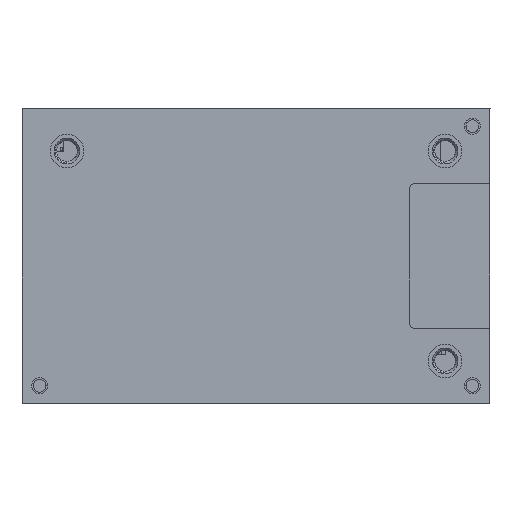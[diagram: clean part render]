
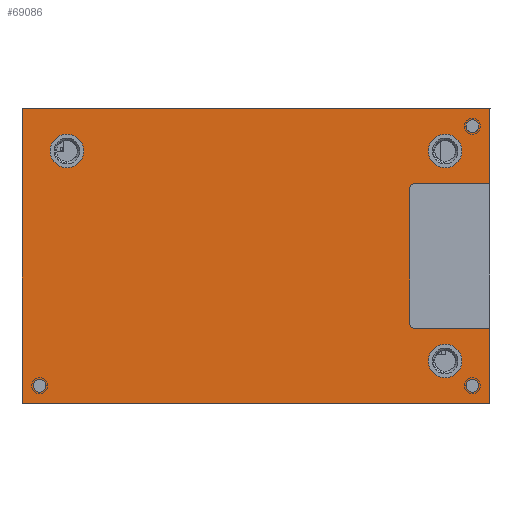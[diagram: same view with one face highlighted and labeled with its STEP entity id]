
A CAD part, top view. The second image highlights one B-rep face of the part: STEP entity #69086.
In plain terms, the highlighted planar face has unit normal (0, 0, 1).
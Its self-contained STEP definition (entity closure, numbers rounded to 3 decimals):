
#67449=CARTESIAN_POINT('',(27.,16.2,1.45));
#67450=DIRECTION('',(0.,0.,-1.));
#67451=DIRECTION('',(1.,0.,0.));
#67452=AXIS2_PLACEMENT_3D('',#67449,#67450,#67451);
#67457=CARTESIAN_POINT('',(27.,16.2,1.45));
#67458=DIRECTION('',(0.,0.,-1.));
#67459=DIRECTION('',(-1.,0.,0.));
#67460=AXIS2_PLACEMENT_3D('',#67457,#67458,#67459);
#67465=CARTESIAN_POINT('',(27.,-16.2,1.45));
#67466=DIRECTION('',(0.,0.,1.));
#67467=DIRECTION('',(1.,0.,0.));
#67468=AXIS2_PLACEMENT_3D('',#67465,#67466,#67467);
#67473=CARTESIAN_POINT('',(27.,-16.2,1.45));
#67474=DIRECTION('',(0.,0.,1.));
#67475=DIRECTION('',(-1.,0.,0.));
#67476=AXIS2_PLACEMENT_3D('',#67473,#67474,#67475);
#67481=CARTESIAN_POINT('',(-27.,-16.2,1.45));
#67482=DIRECTION('',(0.,0.,-1.));
#67483=DIRECTION('',(-1.,0.,0.));
#67484=AXIS2_PLACEMENT_3D('',#67481,#67482,#67483);
#67489=CARTESIAN_POINT('',(-27.,-16.2,1.45));
#67490=DIRECTION('',(0.,0.,-1.));
#67491=DIRECTION('',(1.,0.,0.));
#67492=AXIS2_PLACEMENT_3D('',#67489,#67490,#67491);
#67497=DIRECTION('',(-1.,0.,0.));
#67498=VECTOR('',#67497,9.5);
#67499=CARTESIAN_POINT('',(29.2,9.,1.45));
#67500=LINE('',#67499,#67498);
#67504=CARTESIAN_POINT('',(19.7,8.5,1.45));
#67505=DIRECTION('',(0.,0.,1.));
#67506=DIRECTION('',(0.,1.,0.));
#67507=AXIS2_PLACEMENT_3D('',#67504,#67505,#67506);
#67512=DIRECTION('',(0.,-1.,0.));
#67513=VECTOR('',#67512,17.);
#67514=CARTESIAN_POINT('',(19.2,8.5,1.45));
#67515=LINE('',#67514,#67513);
#67519=CARTESIAN_POINT('',(19.7,-8.5,1.45));
#67520=DIRECTION('',(0.,0.,1.));
#67521=DIRECTION('',(-1.,0.,0.));
#67522=AXIS2_PLACEMENT_3D('',#67519,#67520,#67521);
#67527=DIRECTION('',(-1.,0.,0.));
#67528=VECTOR('',#67527,9.5);
#67529=CARTESIAN_POINT('',(29.2,-9.,1.45));
#67530=LINE('',#67529,#67528);
#67534=DIRECTION('',(0.,1.,0.));
#67535=VECTOR('',#67534,9.4);
#67536=CARTESIAN_POINT('',(29.2,-18.4,1.45));
#67537=LINE('',#67536,#67535);
#67541=DIRECTION('',(1.,0.,0.));
#67542=VECTOR('',#67541,58.4);
#67543=CARTESIAN_POINT('',(-29.2,-18.4,1.45));
#67544=LINE('',#67543,#67542);
#67548=DIRECTION('',(0.,-1.,0.));
#67549=VECTOR('',#67548,36.8);
#67550=CARTESIAN_POINT('',(-29.2,18.4,1.45));
#67551=LINE('',#67550,#67549);
#67555=DIRECTION('',(-1.,0.,0.));
#67556=VECTOR('',#67555,58.4);
#67557=CARTESIAN_POINT('',(29.2,18.4,1.45));
#67558=LINE('',#67557,#67556);
#67562=DIRECTION('',(0.,1.,0.));
#67563=VECTOR('',#67562,9.4);
#67564=CARTESIAN_POINT('',(29.2,9.,1.45));
#67565=LINE('',#67564,#67563);
#67569=CARTESIAN_POINT('',(23.6,-13.1,1.45));
#67570=DIRECTION('',(0.,0.,1.));
#67571=DIRECTION('',(-1.,0.,0.));
#67572=AXIS2_PLACEMENT_3D('',#67569,#67570,#67571);
#67577=CARTESIAN_POINT('',(23.6,-13.1,1.45));
#67578=DIRECTION('',(0.,0.,1.));
#67579=DIRECTION('',(1.,0.,0.));
#67580=AXIS2_PLACEMENT_3D('',#67577,#67578,#67579);
#67585=CARTESIAN_POINT('',(23.6,13.1,1.45));
#67586=DIRECTION('',(0.,0.,1.));
#67587=DIRECTION('',(-1.,0.,0.));
#67588=AXIS2_PLACEMENT_3D('',#67585,#67586,#67587);
#67593=CARTESIAN_POINT('',(23.6,13.1,1.45));
#67594=DIRECTION('',(0.,0.,1.));
#67595=DIRECTION('',(1.,0.,0.));
#67596=AXIS2_PLACEMENT_3D('',#67593,#67594,#67595);
#67601=CARTESIAN_POINT('',(-23.6,13.1,1.45));
#67602=DIRECTION('',(0.,0.,1.));
#67603=DIRECTION('',(-1.,0.,0.));
#67604=AXIS2_PLACEMENT_3D('',#67601,#67602,#67603);
#67609=CARTESIAN_POINT('',(-23.6,13.1,1.45));
#67610=DIRECTION('',(0.,0.,1.));
#67611=DIRECTION('',(1.,0.,0.));
#67612=AXIS2_PLACEMENT_3D('',#67609,#67610,#67611);
#68691=CARTESIAN_POINT('',(-29.2,18.4,1.45));
#68692=CARTESIAN_POINT('',(-29.2,-18.4,1.45));
#68693=VERTEX_POINT('',#68691);
#68694=VERTEX_POINT('',#68692);
#68695=CARTESIAN_POINT('',(29.2,-18.4,1.45));
#68696=VERTEX_POINT('',#68695);
#68697=CARTESIAN_POINT('',(29.2,18.4,1.45));
#68698=VERTEX_POINT('',#68697);
#68751=CARTESIAN_POINT('',(27.8,16.2,1.45));
#68752=CARTESIAN_POINT('',(26.2,16.2,1.45));
#68753=VERTEX_POINT('',#68751);
#68754=VERTEX_POINT('',#68752);
#68759=CARTESIAN_POINT('',(27.8,-16.2,1.45));
#68761=VERTEX_POINT('',#68759);
#68763=CARTESIAN_POINT('',(26.2,-16.2,1.45));
#68765=VERTEX_POINT('',#68763);
#68767=CARTESIAN_POINT('',(-27.8,-16.2,1.45));
#68769=VERTEX_POINT('',#68767);
#68771=CARTESIAN_POINT('',(-26.2,-16.2,1.45));
#68773=VERTEX_POINT('',#68771);
#68891=CARTESIAN_POINT('',(29.2,9.,1.45));
#68892=CARTESIAN_POINT('',(19.7,9.,1.45));
#68893=VERTEX_POINT('',#68891);
#68894=VERTEX_POINT('',#68892);
#68895=CARTESIAN_POINT('',(19.2,8.5,1.45));
#68896=VERTEX_POINT('',#68895);
#68897=CARTESIAN_POINT('',(19.2,-8.5,1.45));
#68898=VERTEX_POINT('',#68897);
#68899=CARTESIAN_POINT('',(19.7,-9.,1.45));
#68900=VERTEX_POINT('',#68899);
#68901=CARTESIAN_POINT('',(29.2,-9.,1.45));
#68902=VERTEX_POINT('',#68901);
#68907=CARTESIAN_POINT('',(21.5,-13.1,1.45));
#68908=CARTESIAN_POINT('',(25.7,-13.1,1.45));
#68909=VERTEX_POINT('',#68907);
#68910=VERTEX_POINT('',#68908);
#68911=CARTESIAN_POINT('',(21.5,13.1,1.45));
#68912=CARTESIAN_POINT('',(25.7,13.1,1.45));
#68913=VERTEX_POINT('',#68911);
#68914=VERTEX_POINT('',#68912);
#68931=CARTESIAN_POINT('',(-25.7,13.1,1.45));
#68932=CARTESIAN_POINT('',(-21.5,13.1,1.45));
#68933=VERTEX_POINT('',#68931);
#68934=VERTEX_POINT('',#68932);
#69024=CARTESIAN_POINT('',(0.,0.,1.45));
#69025=DIRECTION('',(0.,0.,1.));
#69026=DIRECTION('',(1.,0.,0.));
#69027=AXIS2_PLACEMENT_3D('',#69024,#69025,#69026);
#69028=PLANE('',#69027);
#69030=ORIENTED_EDGE('',*,*,#69029,.T.);
#69032=ORIENTED_EDGE('',*,*,#69031,.T.);
#69034=ORIENTED_EDGE('',*,*,#69033,.T.);
#69036=ORIENTED_EDGE('',*,*,#69035,.T.);
#69038=ORIENTED_EDGE('',*,*,#69037,.F.);
#69040=ORIENTED_EDGE('',*,*,#69039,.F.);
#69042=ORIENTED_EDGE('',*,*,#69041,.F.);
#69044=ORIENTED_EDGE('',*,*,#69043,.F.);
#69046=ORIENTED_EDGE('',*,*,#69045,.F.);
#69048=ORIENTED_EDGE('',*,*,#69047,.F.);
#69049=EDGE_LOOP('',(#69030,#69032,#69034,#69036,#69038,#69040,#69042,#69044,
#69046,#69048));
#69050=FACE_OUTER_BOUND('',#69049,.F.);
#69052=ORIENTED_EDGE('',*,*,#69051,.T.);
#69054=ORIENTED_EDGE('',*,*,#69053,.T.);
#69055=EDGE_LOOP('',(#69052,#69054));
#69056=FACE_BOUND('',#69055,.F.);
#69058=ORIENTED_EDGE('',*,*,#69057,.F.);
#69060=ORIENTED_EDGE('',*,*,#69059,.F.);
#69061=EDGE_LOOP('',(#69058,#69060));
#69062=FACE_BOUND('',#69061,.F.);
#69064=ORIENTED_EDGE('',*,*,#69063,.F.);
#69066=ORIENTED_EDGE('',*,*,#69065,.F.);
#69067=EDGE_LOOP('',(#69064,#69066));
#69068=FACE_BOUND('',#69067,.F.);
#69070=ORIENTED_EDGE('',*,*,#69069,.T.);
#69072=ORIENTED_EDGE('',*,*,#69071,.T.);
#69073=EDGE_LOOP('',(#69070,#69072));
#69074=FACE_BOUND('',#69073,.F.);
#69075=ORIENTED_EDGE('',*,*,#69010,.T.);
#69077=ORIENTED_EDGE('',*,*,#69076,.T.);
#69078=EDGE_LOOP('',(#69075,#69077));
#69079=FACE_BOUND('',#69078,.F.);
#69081=ORIENTED_EDGE('',*,*,#69080,.T.);
#69083=ORIENTED_EDGE('',*,*,#69082,.T.);
#69084=EDGE_LOOP('',(#69081,#69083));
#69085=FACE_BOUND('',#69084,.F.);
#69086=ADVANCED_FACE('',(#69050,#69056,#69062,#69068,#69074,#69079,#69085),
#69028,.T.);
#67453=CIRCLE('',#67452,0.8);
#67461=CIRCLE('',#67460,0.8);
#67469=CIRCLE('',#67468,0.8);
#67477=CIRCLE('',#67476,0.8);
#67485=CIRCLE('',#67484,0.8);
#67493=CIRCLE('',#67492,0.8);
#67508=CIRCLE('',#67507,0.5);
#67523=CIRCLE('',#67522,0.5);
#67573=CIRCLE('',#67572,2.1);
#67581=CIRCLE('',#67580,2.1);
#67589=CIRCLE('',#67588,2.1);
#67597=CIRCLE('',#67596,2.1);
#67605=CIRCLE('',#67604,2.1);
#67613=CIRCLE('',#67612,2.1);
#69010=EDGE_CURVE('',#68913,#68914,#67589,.T.);
#69029=EDGE_CURVE('',#68893,#68894,#67500,.T.);
#69031=EDGE_CURVE('',#68894,#68896,#67508,.T.);
#69033=EDGE_CURVE('',#68896,#68898,#67515,.T.);
#69035=EDGE_CURVE('',#68898,#68900,#67523,.T.);
#69037=EDGE_CURVE('',#68902,#68900,#67530,.T.);
#69039=EDGE_CURVE('',#68696,#68902,#67537,.T.);
#69041=EDGE_CURVE('',#68694,#68696,#67544,.T.);
#69043=EDGE_CURVE('',#68693,#68694,#67551,.T.);
#69045=EDGE_CURVE('',#68698,#68693,#67558,.T.);
#69047=EDGE_CURVE('',#68893,#68698,#67565,.T.);
#69051=EDGE_CURVE('',#68761,#68765,#67469,.T.);
#69053=EDGE_CURVE('',#68765,#68761,#67477,.T.);
#69057=EDGE_CURVE('',#68769,#68773,#67485,.T.);
#69059=EDGE_CURVE('',#68773,#68769,#67493,.T.);
#69063=EDGE_CURVE('',#68753,#68754,#67453,.T.);
#69065=EDGE_CURVE('',#68754,#68753,#67461,.T.);
#69069=EDGE_CURVE('',#68909,#68910,#67573,.T.);
#69071=EDGE_CURVE('',#68910,#68909,#67581,.T.);
#69076=EDGE_CURVE('',#68914,#68913,#67597,.T.);
#69080=EDGE_CURVE('',#68933,#68934,#67605,.T.);
#69082=EDGE_CURVE('',#68934,#68933,#67613,.T.);
